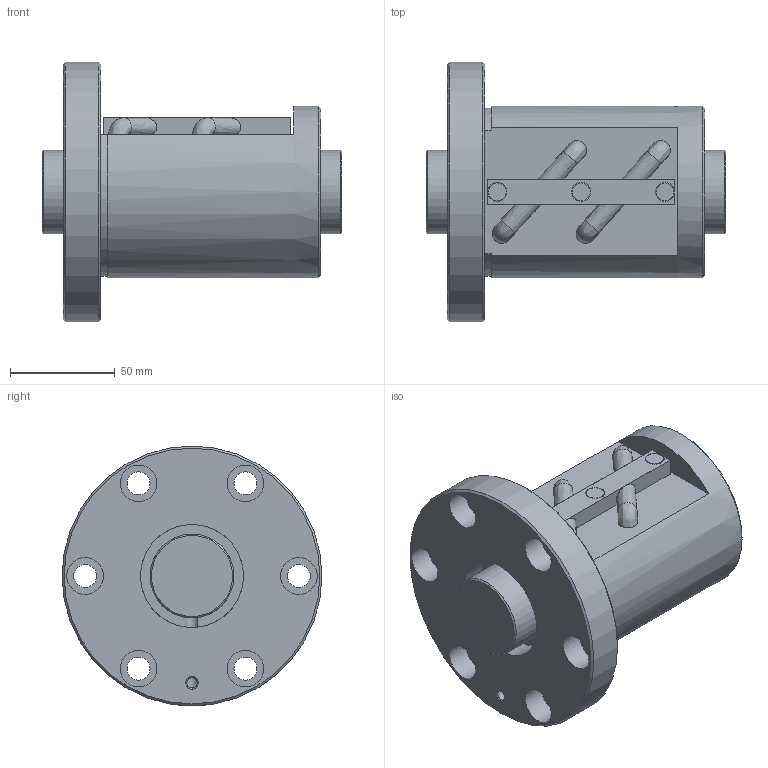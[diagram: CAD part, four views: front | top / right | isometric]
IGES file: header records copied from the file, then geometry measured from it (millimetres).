
Start section: Data from Parasolid IGES Translator 26.0.171, Copyright(c) 2006 Siemens PLM Software. All Rights Reserved.
Global section: file name: BIF4010V-7RRG0+143LC0_000.igs; native system: By Siemens PLM Incorporated; preprocessor: XPlus GENERIC/IGES 26.0.171; author: Noname; organization: Noname; date: 20240715.082420; units: millimetre
Bounding box: 143 x 124 x 124 mm (x, y, z)
Surface area: 100477.7 mm2 (no closed solid volume)
Topology: 0 solids, 0 shells, 91 faces, 422 edges, 385 vertices
Faces by surface type: revolution 48, extrusion 43
